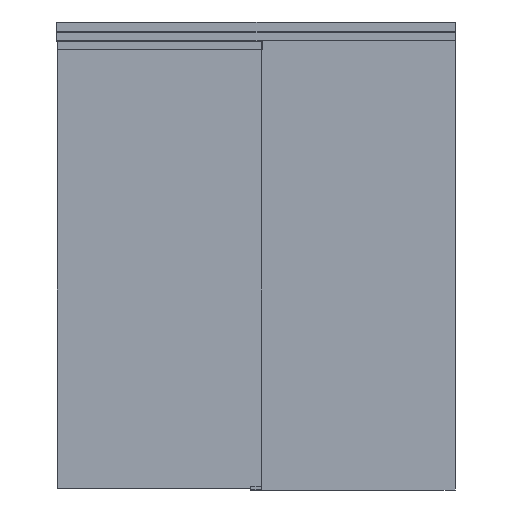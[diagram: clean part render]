
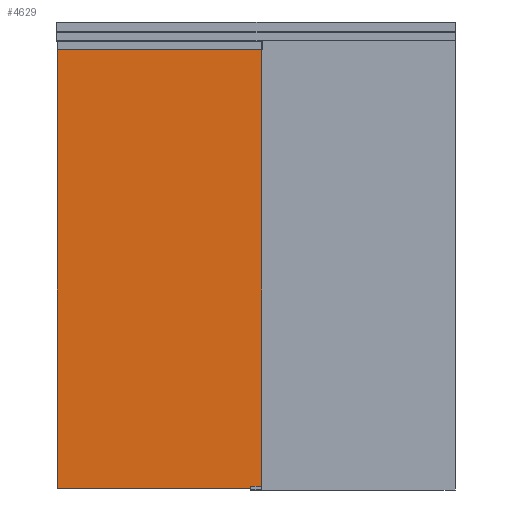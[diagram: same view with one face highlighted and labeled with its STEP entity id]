
A CAD part, front view. The second image highlights one B-rep face of the part: STEP entity #4629.
In plain terms, the highlighted planar face has unit normal (0, -1, 0).
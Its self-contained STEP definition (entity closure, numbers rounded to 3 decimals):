
#4629=ADVANCED_FACE('',(#9278),#9279,.T.);
#9278=FACE_OUTER_BOUND('',#13778,.T.);
#9279=PLANE('',#13779);
#13778=EDGE_LOOP('',(#26609,#26610,#26611,#26612));
#13779=AXIS2_PLACEMENT_3D('',#26613,#26614,#26615);
#26609=ORIENTED_EDGE('',*,*,#31620,.F.);
#26610=ORIENTED_EDGE('',*,*,#31615,.F.);
#26611=ORIENTED_EDGE('',*,*,#31618,.F.);
#26612=ORIENTED_EDGE('',*,*,#31621,.F.);
#26613=CARTESIAN_POINT('',(527.5,-4.,1157.0));
#26614=DIRECTION('',(0.0,-1.0,0.0));
#26615=DIRECTION('',(1.0,0.0,0.0));
#31615=EDGE_CURVE('',#38967,#38965,#38969,.T.);
#31618=EDGE_CURVE('',#38971,#38967,#38973,.T.);
#31620=EDGE_CURVE('',#38965,#38975,#38976,.T.);
#31621=EDGE_CURVE('',#38975,#38971,#38977,.T.);
#38965=VERTEX_POINT('',#48763);
#38967=VERTEX_POINT('',#48766);
#38969=LINE('',#48769,#48770);
#38971=VERTEX_POINT('',#48772);
#38973=LINE('',#48775,#48776);
#38975=VERTEX_POINT('',#48778);
#38976=LINE('',#48779,#48780);
#38977=LINE('',#48781,#48782);
#48763=CARTESIAN_POINT('',(2.,-4.,2288.0));
#48766=CARTESIAN_POINT('',(2.,-4.,9.));
#48769=CARTESIAN_POINT('',(2.,-4.,581.0));
#48770=VECTOR('',#54655,1.0);
#48772=CARTESIAN_POINT('',(1055.,-4.,9.));
#48775=CARTESIAN_POINT('',(207.315,-4.,9.));
#48776=VECTOR('',#54657,1.0);
#48778=CARTESIAN_POINT('',(1055.,-4.,2288.0));
#48779=CARTESIAN_POINT('',(527.5,-4.,2288.0));
#48780=VECTOR('',#54658,1.0);
#48781=CARTESIAN_POINT('',(1055.,-4.,581.0));
#48782=VECTOR('',#54659,1.0);
#54655=DIRECTION('',(0.0,0.0,1.0));
#54657=DIRECTION('',(-1.0,0.0,0.0));
#54658=DIRECTION('',(1.0,0.0,0.0));
#54659=DIRECTION('',(0.0,0.0,-1.0));
